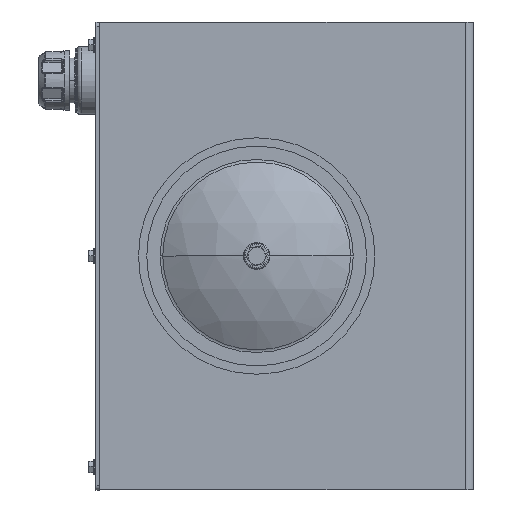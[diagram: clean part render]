
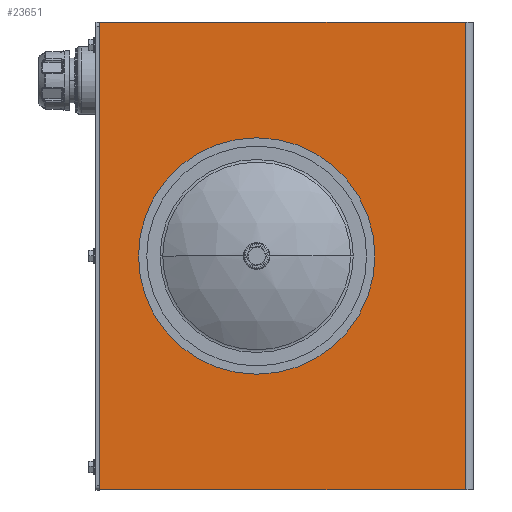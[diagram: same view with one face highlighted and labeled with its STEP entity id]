
A CAD part, left-side view. The second image highlights one B-rep face of the part: STEP entity #23651.
In plain terms, the highlighted planar face has unit normal (-1, 0, 0).
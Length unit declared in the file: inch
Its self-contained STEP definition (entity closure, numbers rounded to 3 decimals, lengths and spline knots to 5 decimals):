
#320 = VECTOR ( 'NONE', #24997, 39.37008 ) ;
#847 = ORIENTED_EDGE ( 'NONE', *, *, #19550, .T. ) ;
#1597 = CARTESIAN_POINT ( 'NONE',  ( -19.47492, -1.168, 0.96574 ) ) ;
#2984 = VERTEX_POINT ( 'NONE', #4325 ) ;
#4218 = DIRECTION ( 'NONE',  ( 0., 0., 1. ) ) ;
#4325 = CARTESIAN_POINT ( 'NONE',  ( -19.47492, -11.8662, 12.96574 ) ) ;
#4941 = VERTEX_POINT ( 'NONE', #15044 ) ;
#5015 = AXIS2_PLACEMENT_3D ( 'NONE', #1597, #19718, #4218 ) ;
#5540 = CARTESIAN_POINT ( 'NONE',  ( -19.47492, 6.892, -11.03426 ) ) ;
#5679 = DIRECTION ( 'NONE',  ( -1., 0., 0. ) ) ;
#7767 = CARTESIAN_POINT ( 'NONE',  ( -19.47492, -1.168, 5.96574 ) ) ;
#7830 = VERTEX_POINT ( 'NONE', #25636 ) ;
#8458 = VECTOR ( 'NONE', #26095, 39.37008 ) ;
#8634 = ORIENTED_EDGE ( 'NONE', *, *, #17914, .T. ) ;
#8655 = VERTEX_POINT ( 'NONE', #7767 ) ;
#8730 = FACE_OUTER_BOUND ( 'NONE', #19334, .T. ) ;
#8901 = CIRCLE ( 'NONE', #5015, 5. ) ;
#9002 = ORIENTED_EDGE ( 'NONE', *, *, #17406, .F. ) ;
#11368 = VECTOR ( 'NONE', #15566, 39.37008 ) ;
#12212 = CIRCLE ( 'NONE', #16525, 5. ) ;
#12699 = PLANE ( 'NONE',  #21765 ) ;
#12927 = CARTESIAN_POINT ( 'NONE',  ( -19.47492, -12.2955, -11.03426 ) ) ;
#13201 = DIRECTION ( 'NONE',  ( 0., 1., 0. ) ) ;
#15044 = CARTESIAN_POINT ( 'NONE',  ( -19.47492, 6.892, -11.03426 ) ) ;
#15230 = CARTESIAN_POINT ( 'NONE',  ( -19.47492, 6.892, -11.03426 ) ) ;
#15343 = DIRECTION ( 'NONE',  ( 0., 0., -1. ) ) ;
#15444 = VECTOR ( 'NONE', #13201, 39.37008 ) ;
#15566 = DIRECTION ( 'NONE',  ( 0., -1., 0. ) ) ;
#16432 = CARTESIAN_POINT ( 'NONE',  ( -19.47492, -11.8662, -11.03426 ) ) ;
#16525 = AXIS2_PLACEMENT_3D ( 'NONE', #21149, #5679, #23673 ) ;
#17406 = EDGE_CURVE ( 'NONE', #7830, #8655, #12212, .T. ) ;
#17914 = EDGE_CURVE ( 'NONE', #4941, #27486, #31678, .T. ) ;
#19154 = EDGE_CURVE ( 'NONE', #2984, #31845, #21752, .T. ) ;
#19334 = EDGE_LOOP ( 'NONE', ( #847, #25452, #23488, #8634 ) ) ;
#19457 = EDGE_CURVE ( 'NONE', #8655, #7830, #8901, .T. ) ;
#19550 = EDGE_CURVE ( 'NONE', #27486, #2984, #30077, .T. ) ;
#19718 = DIRECTION ( 'NONE',  ( -1., 0., 0. ) ) ;
#19781 = EDGE_CURVE ( 'NONE', #31845, #4941, #28862, .T. ) ;
#21149 = CARTESIAN_POINT ( 'NONE',  ( -19.47492, -1.168, 0.96574 ) ) ;
#21752 = LINE ( 'NONE', #23379, #15444 ) ;
#21765 = AXIS2_PLACEMENT_3D ( 'NONE', #15230, #30506, #15343 ) ;
#22418 = FACE_BOUND ( 'NONE', #29729, .T. ) ;
#22478 = CARTESIAN_POINT ( 'NONE',  ( -19.47492, -11.8662, -11.03426 ) ) ;
#23379 = CARTESIAN_POINT ( 'NONE',  ( -19.47492, -12.2955, 12.96574 ) ) ;
#23488 = ORIENTED_EDGE ( 'NONE', *, *, #19781, .T. ) ;
#23651 = ADVANCED_FACE ( 'NONE', ( #22418, #8730 ), #12699, .F. ) ;
#23673 = DIRECTION ( 'NONE',  ( 0., 0., 1. ) ) ;
#24997 = DIRECTION ( 'NONE',  ( 0., 0., 1. ) ) ;
#25452 = ORIENTED_EDGE ( 'NONE', *, *, #19154, .T. ) ;
#25636 = CARTESIAN_POINT ( 'NONE',  ( -19.47492, -1.168, -4.03426 ) ) ;
#26095 = DIRECTION ( 'NONE',  ( 0., 0., -1. ) ) ;
#27486 = VERTEX_POINT ( 'NONE', #16432 ) ;
#27935 = CARTESIAN_POINT ( 'NONE',  ( -19.47492, 6.892, 12.96574 ) ) ;
#28862 = LINE ( 'NONE', #5540, #8458 ) ;
#29729 = EDGE_LOOP ( 'NONE', ( #30547, #9002 ) ) ;
#30077 = LINE ( 'NONE', #22478, #320 ) ;
#30506 = DIRECTION ( 'NONE',  ( 1., 0., 0. ) ) ;
#30547 = ORIENTED_EDGE ( 'NONE', *, *, #19457, .F. ) ;
#31678 = LINE ( 'NONE', #12927, #11368 ) ;
#31845 = VERTEX_POINT ( 'NONE', #27935 ) ;
